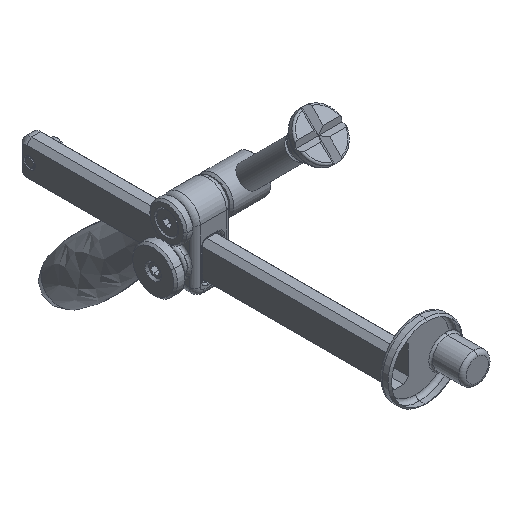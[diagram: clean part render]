
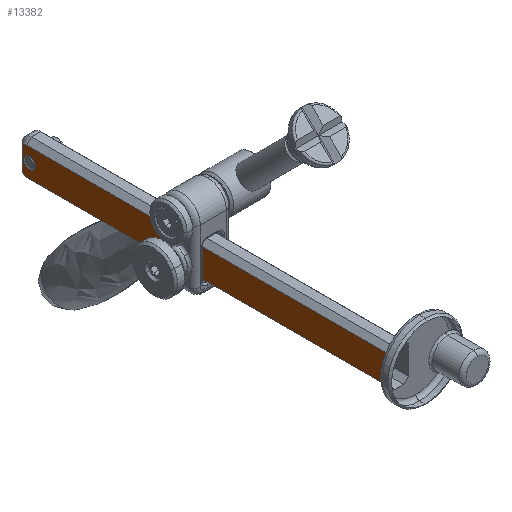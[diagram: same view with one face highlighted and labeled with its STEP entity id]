
A CAD part, isometric view. The second image highlights one B-rep face of the part: STEP entity #13382.
In plain terms, the highlighted planar face has unit normal (-1, 0, 0).
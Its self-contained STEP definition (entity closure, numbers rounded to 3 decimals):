
#33 = VERTEX_POINT ( 'NONE', #7857 ) ;
#281 = ORIENTED_EDGE ( 'NONE', *, *, #7568, .T. ) ;
#285 = LINE ( 'NONE', #4786, #10822 ) ;
#348 = DIRECTION ( 'NONE',  ( 1., 0., 0. ) ) ;
#644 = CARTESIAN_POINT ( 'NONE',  ( -14., 201., 5. ) ) ;
#691 = FACE_OUTER_BOUND ( 'NONE', #8488, .T. ) ;
#838 = AXIS2_PLACEMENT_3D ( 'NONE', #11461, #1337, #3491 ) ;
#1113 = DIRECTION ( 'NONE',  ( 0., 0., -1. ) ) ;
#1181 = CARTESIAN_POINT ( 'NONE',  ( -14., 6., -7.5 ) ) ;
#1337 = DIRECTION ( 'NONE',  ( 1., 0., 0. ) ) ;
#1342 = VERTEX_POINT ( 'NONE', #8936 ) ;
#1436 = EDGE_CURVE ( 'NONE', #7661, #5214, #285, .T. ) ;
#1439 = VECTOR ( 'NONE', #1704, 1000. ) ;
#1515 = EDGE_CURVE ( 'NONE', #4968, #1342, #9682, .T. ) ;
#1524 = VECTOR ( 'NONE', #11268, 1000. ) ;
#1704 = DIRECTION ( 'NONE',  ( 0., 1., 0. ) ) ;
#1778 = LINE ( 'NONE', #10931, #1439 ) ;
#1851 = CARTESIAN_POINT ( 'NONE',  ( -14., 201., -7.5 ) ) ;
#2046 = CIRCLE ( 'NONE', #14075, 3.1 ) ;
#2174 = LINE ( 'NONE', #7616, #1524 ) ;
#2204 = EDGE_CURVE ( 'NONE', #9893, #7863, #13566, .T. ) ;
#3491 = DIRECTION ( 'NONE',  ( 0., 0., -1. ) ) ;
#3745 = CARTESIAN_POINT ( 'NONE',  ( -14., 199.5, 0. ) ) ;
#3782 = DIRECTION ( 'NONE',  ( 0., 0., -1. ) ) ;
#4786 = CARTESIAN_POINT ( 'NONE',  ( -14., 206., -7.5 ) ) ;
#4855 = DIRECTION ( 'NONE',  ( 0., 0., -1. ) ) ;
#4898 = LINE ( 'NONE', #7775, #8889 ) ;
#4968 = VERTEX_POINT ( 'NONE', #9120 ) ;
#5214 = VERTEX_POINT ( 'NONE', #1181 ) ;
#5460 = EDGE_CURVE ( 'NONE', #5214, #13881, #2174, .T. ) ;
#5686 = CARTESIAN_POINT ( 'NONE',  ( -14., 199.5, -3.1 ) ) ;
#6199 = CIRCLE ( 'NONE', #10910, 2.5 ) ;
#6317 = DIRECTION ( 'NONE',  ( -1., 0., 0. ) ) ;
#7270 = EDGE_CURVE ( 'NONE', #7863, #9893, #2046, .T. ) ;
#7432 = CARTESIAN_POINT ( 'NONE',  ( -14., 6., 7.5 ) ) ;
#7568 = EDGE_CURVE ( 'NONE', #1342, #33, #4898, .T. ) ;
#7616 = CARTESIAN_POINT ( 'NONE',  ( -14., 6., 10. ) ) ;
#7661 = VERTEX_POINT ( 'NONE', #1851 ) ;
#7775 = CARTESIAN_POINT ( 'NONE',  ( -14., 203.5, 10. ) ) ;
#7822 = DIRECTION ( 'NONE',  ( 0., -1., 0. ) ) ;
#7857 = CARTESIAN_POINT ( 'NONE',  ( -14., 203.5, -5. ) ) ;
#7863 = VERTEX_POINT ( 'NONE', #5686 ) ;
#8225 = EDGE_LOOP ( 'NONE', ( #10259, #13131 ) ) ;
#8426 = DIRECTION ( 'NONE',  ( 1., 0., 0. ) ) ;
#8488 = EDGE_LOOP ( 'NONE', ( #11715, #10630, #9737, #10722, #11174, #281 ) ) ;
#8847 = DIRECTION ( 'NONE',  ( -1., 0., 0. ) ) ;
#8889 = VECTOR ( 'NONE', #3782, 1000. ) ;
#8936 = CARTESIAN_POINT ( 'NONE',  ( -14., 203.5, 5. ) ) ;
#9120 = CARTESIAN_POINT ( 'NONE',  ( -14., 201., 7.5 ) ) ;
#9682 = CIRCLE ( 'NONE', #9917, 2.5 ) ;
#9737 = ORIENTED_EDGE ( 'NONE', *, *, #5460, .T. ) ;
#9755 = FACE_BOUND ( 'NONE', #8225, .T. ) ;
#9893 = VERTEX_POINT ( 'NONE', #10758 ) ;
#9917 = AXIS2_PLACEMENT_3D ( 'NONE', #644, #6317, #13919 ) ;
#10259 = ORIENTED_EDGE ( 'NONE', *, *, #2204, .T. ) ;
#10630 = ORIENTED_EDGE ( 'NONE', *, *, #1436, .T. ) ;
#10722 = ORIENTED_EDGE ( 'NONE', *, *, #10883, .T. ) ;
#10723 = PLANE ( 'NONE',  #12588 ) ;
#10758 = CARTESIAN_POINT ( 'NONE',  ( -14., 199.5, 3.1 ) ) ;
#10822 = VECTOR ( 'NONE', #7822, 1000. ) ;
#10883 = EDGE_CURVE ( 'NONE', #13881, #4968, #1778, .T. ) ;
#10910 = AXIS2_PLACEMENT_3D ( 'NONE', #14396, #8847, #1113 ) ;
#10931 = CARTESIAN_POINT ( 'NONE',  ( -14., 206., 7.5 ) ) ;
#11174 = ORIENTED_EDGE ( 'NONE', *, *, #1515, .T. ) ;
#11268 = DIRECTION ( 'NONE',  ( 0., 0., 1. ) ) ;
#11461 = CARTESIAN_POINT ( 'NONE',  ( -14., 199.5, 0. ) ) ;
#11715 = ORIENTED_EDGE ( 'NONE', *, *, #12327, .T. ) ;
#12327 = EDGE_CURVE ( 'NONE', #33, #7661, #6199, .T. ) ;
#12588 = AXIS2_PLACEMENT_3D ( 'NONE', #14255, #8426, #12943 ) ;
#12943 = DIRECTION ( 'NONE',  ( 0., 0., -1. ) ) ;
#13131 = ORIENTED_EDGE ( 'NONE', *, *, #7270, .T. ) ;
#13382 = ADVANCED_FACE ( 'NONE', ( #9755, #691 ), #10723, .F. ) ;
#13566 = CIRCLE ( 'NONE', #838, 3.1 ) ;
#13881 = VERTEX_POINT ( 'NONE', #7432 ) ;
#13919 = DIRECTION ( 'NONE',  ( 0., 0., -1. ) ) ;
#14075 = AXIS2_PLACEMENT_3D ( 'NONE', #3745, #348, #4855 ) ;
#14255 = CARTESIAN_POINT ( 'NONE',  ( -14., 206., 10. ) ) ;
#14396 = CARTESIAN_POINT ( 'NONE',  ( -14., 201., -5. ) ) ;
